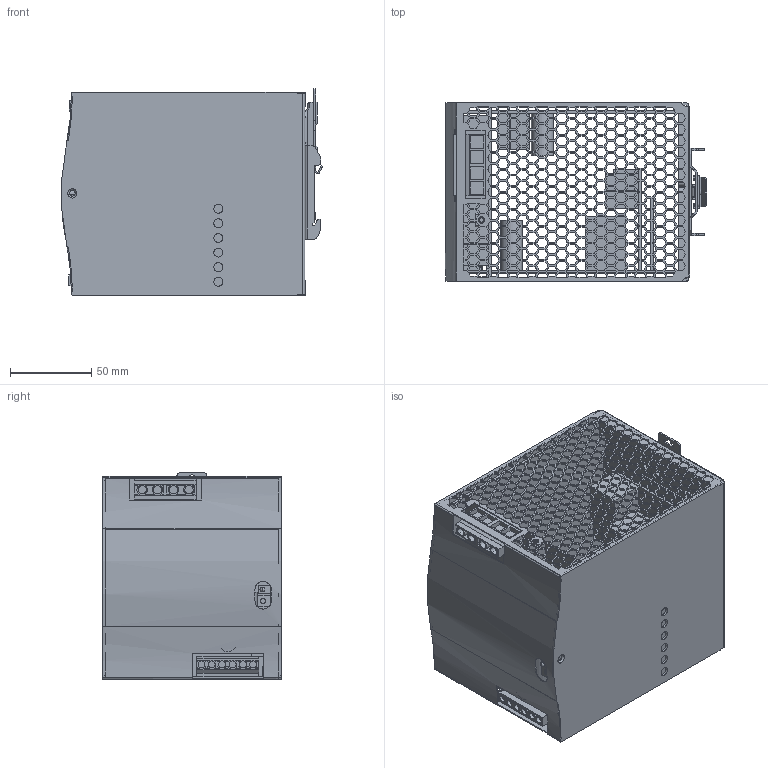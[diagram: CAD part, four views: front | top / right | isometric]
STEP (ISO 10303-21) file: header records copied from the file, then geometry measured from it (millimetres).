
FILE_DESCRIPTION(('Creo Elements/Direct Modeling STEP Export'),'2;1');
FILE_NAME('TDR-960.stp','2024-05-17T11:35:05',(''),(''),'PTC Creo Elements/Direct Modeling STEP processor for AP214 (Solid Model)','PTC Creo Elements/Direct Modeling 19.0E 27-Jun-2016 (C) Parametric Technology GmbH','');
FILE_SCHEMA(('AUTOMOTIVE_DESIGN { 1 0 10303 214 1 1 1 1 }'));
Length unit declared in the file: millimetre
Products named in the file (19): PCB1_1_1_2_1.PRT; PCB1_1_1_2_PRT-2248.PRT; PCB1_1_1_2_PRT-2355.PRT; PCB1_1_1_2_PRT-2453.PRT; PCB1_1_1_2_PRT-2551.PRT; PCB1_1_1_2_PRT-19008.PRT; PCB1_1_1_2.ASM; _S_JW_X2_02C6_X0_O.ASM; _X2_02CB_X0__S___S__Y_1.PRT; TDR-960_1.ASM; _X2_639B5EA7_X0_DRP14A.ASM; TDR-960-3D_1.ASM; P1-141735_PRT.PRT; P3_PRT.PRT; _X2_639B5EA7_X0_DRP14A_ASM.ASM; TDR-960-3D.stp; TDR-960.stp; DH2I-2X7; 1FF1DH2I-2X7.stp
Assembly tree (17 placements, depth 7):
  TDR-960.stp
    TDR-960-3D.stp
      _X2_639B5EA7_X0_DRP14A_ASM.ASM
        P3_PRT.PRT
        P1-141735_PRT.PRT
      TDR-960-3D_1.ASM
        _X2_639B5EA7_X0_DRP14A.ASM
        TDR-960_1.ASM
          _X2_02CB_X0__S___S__Y_1.PRT
          _S_JW_X2_02C6_X0_O.ASM
            PCB1_1_1_2.ASM
              PCB1_1_1_2_PRT-19008.PRT
              PCB1_1_1_2_PRT-2551.PRT
              PCB1_1_1_2_PRT-2453.PRT
              PCB1_1_1_2_PRT-2355.PRT
              PCB1_1_1_2_PRT-2248.PRT
            PCB1_1_1_2_1.PRT
  1FF1DH2I-2X7.stp
    DH2I-2X7
Bounding box: 160.99 x 110.05 x 127.41 mm (x, y, z)
Volume: 396228.5 mm3; surface area: 349965.1 mm2
Topology: 10 solids, 10 shells, 5282 faces, 15466 edges, 10263 vertices
Faces by surface type: plane 4742, cylinder 398, cone 132, torus 10
Entity records: 182869 total; most frequent: CARTESIAN_POINT 30995, ORIENTED_EDGE 30932, DIRECTION 26439, EDGE_CURVE 15466, VECTOR 14403, LINE 14403, VERTEX_POINT 10263, EDGE_LOOP 6875
